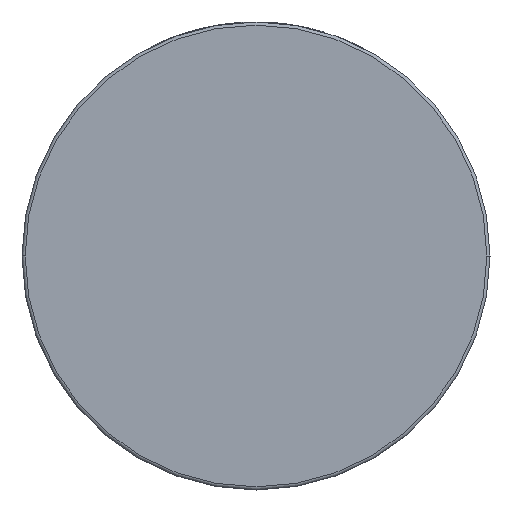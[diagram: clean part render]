
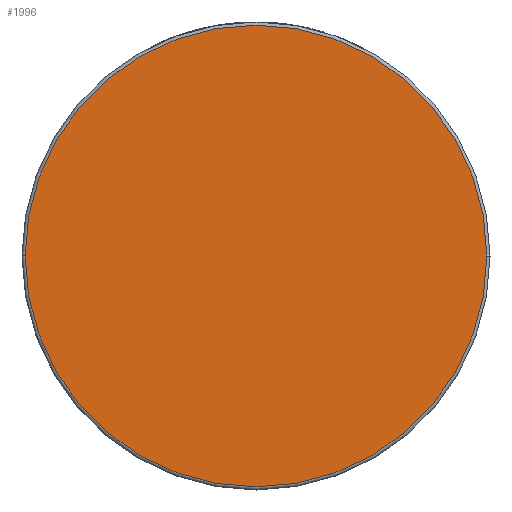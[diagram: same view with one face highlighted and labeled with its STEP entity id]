
A CAD part, front view. The second image highlights one B-rep face of the part: STEP entity #1996.
In plain terms, the highlighted planar face has unit normal (0, -1, 0).
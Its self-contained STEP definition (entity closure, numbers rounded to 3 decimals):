
#72 = CARTESIAN_POINT ( 'NONE',  ( 74., -38., 0. ) ) ;
#197 = DIRECTION ( 'NONE',  ( 1., 0., 0. ) ) ;
#208 = VERTEX_POINT ( 'NONE', #2588 ) ;
#385 = VERTEX_POINT ( 'NONE', #1286 ) ;
#489 = CARTESIAN_POINT ( 'NONE',  ( 0., -38., 0. ) ) ;
#865 = FACE_OUTER_BOUND ( 'NONE', #3988, .T. ) ;
#922 = AXIS2_PLACEMENT_3D ( 'NONE', #489, #1906, #197 ) ;
#1286 = CARTESIAN_POINT ( 'NONE',  ( 73., -38., 0. ) ) ;
#1459 = EDGE_CURVE ( 'NONE', #208, #385, #2165, .T. ) ;
#1817 = PLANE ( 'NONE',  #2334 ) ;
#1906 = DIRECTION ( 'NONE',  ( 0., -1., 0. ) ) ;
#1996 = ADVANCED_FACE ( 'NONE', ( #865 ), #1817, .T. ) ;
#2165 = CIRCLE ( 'NONE', #3573, 73. ) ;
#2334 = AXIS2_PLACEMENT_3D ( 'NONE', #72, #3234, #3953 ) ;
#2389 = DIRECTION ( 'NONE',  ( 0., -1., 0. ) ) ;
#2587 = ORIENTED_EDGE ( 'NONE', *, *, #2784, .T. ) ;
#2588 = CARTESIAN_POINT ( 'NONE',  ( -73., -38., 0. ) ) ;
#2732 = CARTESIAN_POINT ( 'NONE',  ( 0., -38., 0. ) ) ;
#2784 = EDGE_CURVE ( 'NONE', #385, #208, #3730, .T. ) ;
#3234 = DIRECTION ( 'NONE',  ( 0., -1., 0. ) ) ;
#3573 = AXIS2_PLACEMENT_3D ( 'NONE', #2732, #2389, #4443 ) ;
#3730 = CIRCLE ( 'NONE', #922, 73. ) ;
#3793 = ORIENTED_EDGE ( 'NONE', *, *, #1459, .T. ) ;
#3953 = DIRECTION ( 'NONE',  ( 1., 0., 0. ) ) ;
#3988 = EDGE_LOOP ( 'NONE', ( #2587, #3793 ) ) ;
#4443 = DIRECTION ( 'NONE',  ( 1., 0., 0. ) ) ;
